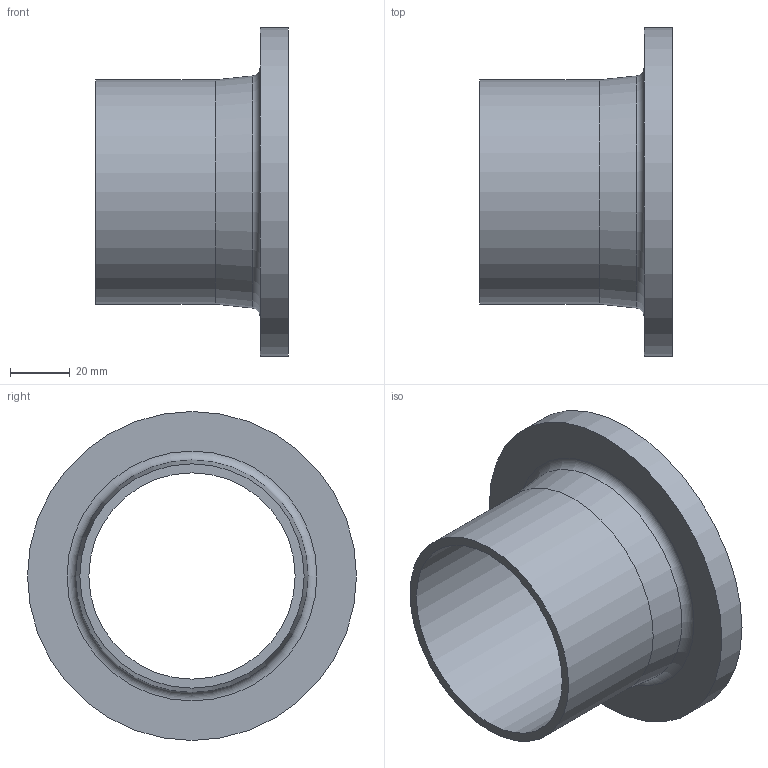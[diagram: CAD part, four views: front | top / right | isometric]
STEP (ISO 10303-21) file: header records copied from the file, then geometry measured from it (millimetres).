
FILE_DESCRIPTION(/* description */ (''),/* implementation_level */ '2;1');
FILE_NAME(/* name */ 'Z:\Geberit\Export\NewStep\365744.stp',/* time_stamp */ '2014-04-02T07:35:08+02:00',/* author */ ('nelson'),/* organization */ (''),/* preprocessor_version */ 'ST-DEVELOPER v15.2',/* originating_system */ 'Autodesk Inventor 2014',/* authorisation */ '');
FILE_SCHEMA (('AUTOMOTIVE_DESIGN { 1 0 10303 214 3 1 1 }'));
Length unit declared in the file: millimetre
Products named in the file (1): 365744
Bounding box: 64.5 x 110 x 110 mm (x, y, z)
Volume: 94437.8 mm3; surface area: 41921.6 mm2
Topology: 1 solids, 1 shells, 17 faces, 28 edges, 17 vertices
Faces by surface type: cone 7, plane 6, cylinder 3, torus 1
Full cylindrical faces by diameter (mm): 69 x1, 75 x1, 110 x1
Entity records: 386 total; most frequent: DIRECTION 70, CARTESIAN_POINT 52, AXIS2_PLACEMENT_3D 35, EDGE_LOOP 34, ORIENTED_EDGE 34, FACE_BOUND 21, STYLED_ITEM 18, CIRCLE 17
